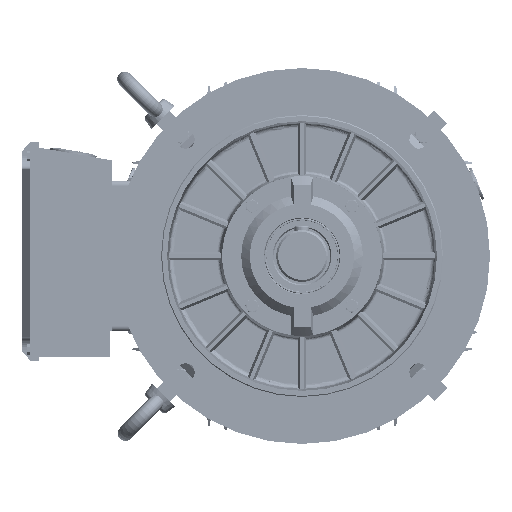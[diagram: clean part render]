
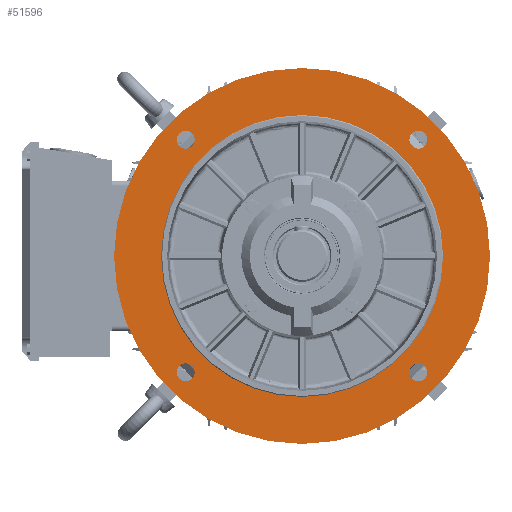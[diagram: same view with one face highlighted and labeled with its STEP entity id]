
A CAD part, left-side view. The second image highlights one B-rep face of the part: STEP entity #51596.
In plain terms, the highlighted planar face has unit normal (-1, 0, 0).
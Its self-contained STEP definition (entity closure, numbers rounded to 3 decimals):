
#771 = DIRECTION ( 'NONE',  ( -1., 0., 0. ) ) ;
#3233 = CIRCLE ( 'NONE', #233635, 150. ) ;
#6597 = FACE_BOUND ( 'NONE', #140625, .T. ) ;
#8140 = CARTESIAN_POINT ( 'NONE',  ( -274.943, -12.616, 1.066 ) ) ;
#8668 = ORIENTED_EDGE ( 'NONE', *, *, #181120, .F. ) ;
#9889 = CARTESIAN_POINT ( 'NONE',  ( -274.943, -12.616, 201.066 ) ) ;
#14997 = DIRECTION ( 'NONE',  ( -1., 0., 0. ) ) ;
#16814 = EDGE_CURVE ( 'NONE', #274257, #251968, #32973, .T. ) ;
#18409 = CARTESIAN_POINT ( 'NONE',  ( -274.943, -12.616, -148.934 ) ) ;
#19900 = ORIENTED_EDGE ( 'NONE', *, *, #205338, .T. ) ;
#20100 = CARTESIAN_POINT ( 'NONE',  ( -274.943, -136.359, -122.677 ) ) ;
#27047 = FACE_BOUND ( 'NONE', #271346, .T. ) ;
#29171 = ORIENTED_EDGE ( 'NONE', *, *, #45304, .F. ) ;
#29677 = CARTESIAN_POINT ( 'NONE',  ( -274.943, 111.128, -122.677 ) ) ;
#32973 = CIRCLE ( 'NONE', #208352, 9.5 ) ;
#33708 = CARTESIAN_POINT ( 'NONE',  ( -274.943, -136.359, -122.677 ) ) ;
#40757 = CIRCLE ( 'NONE', #45945, 9.5 ) ;
#45304 = EDGE_CURVE ( 'NONE', #161134, #223567, #40757, .T. ) ;
#45945 = AXIS2_PLACEMENT_3D ( 'NONE', #20100, #213015, #187945 ) ;
#46332 = CARTESIAN_POINT ( 'NONE',  ( -274.943, -12.616, 1.066 ) ) ;
#51596 = ADVANCED_FACE ( 'NONE', ( #263907, #53699, #191822, #121188, #6597, #27047 ), #198003, .F. ) ;
#53429 = ORIENTED_EDGE ( 'NONE', *, *, #74425, .F. ) ;
#53699 = FACE_BOUND ( 'NONE', #129744, .T. ) ;
#53915 = DIRECTION ( 'NONE',  ( 0., 0., -1. ) ) ;
#56690 = CARTESIAN_POINT ( 'NONE',  ( -274.943, 111.128, 115.31 ) ) ;
#57768 = CIRCLE ( 'NONE', #252993, 9.5 ) ;
#64462 = CARTESIAN_POINT ( 'NONE',  ( -274.943, 111.128, 124.81 ) ) ;
#65397 = ORIENTED_EDGE ( 'NONE', *, *, #260877, .F. ) ;
#67680 = AXIS2_PLACEMENT_3D ( 'NONE', #64462, #185236, #136615 ) ;
#69250 = CARTESIAN_POINT ( 'NONE',  ( -274.943, 111.128, -113.177 ) ) ;
#74425 = EDGE_CURVE ( 'NONE', #286233, #242901, #110945, .T. ) ;
#75637 = CARTESIAN_POINT ( 'NONE',  ( -274.943, -136.359, 115.31 ) ) ;
#80284 = DIRECTION ( 'NONE',  ( -1., 0., 0. ) ) ;
#83534 = CIRCLE ( 'NONE', #178756, 200. ) ;
#85255 = VERTEX_POINT ( 'NONE', #214350 ) ;
#87620 = CARTESIAN_POINT ( 'NONE',  ( -274.943, -136.359, 134.31 ) ) ;
#88196 = AXIS2_PLACEMENT_3D ( 'NONE', #122720, #193375, #150967 ) ;
#88229 = ORIENTED_EDGE ( 'NONE', *, *, #16814, .F. ) ;
#91616 = ORIENTED_EDGE ( 'NONE', *, *, #96742, .F. ) ;
#96742 = EDGE_CURVE ( 'NONE', #242901, #286233, #3233, .T. ) ;
#98675 = CARTESIAN_POINT ( 'NONE',  ( -274.943, -12.616, -198.934 ) ) ;
#102139 = AXIS2_PLACEMENT_3D ( 'NONE', #33708, #272087, #220435 ) ;
#104500 = CARTESIAN_POINT ( 'NONE',  ( -274.943, -136.359, 124.81 ) ) ;
#106776 = EDGE_LOOP ( 'NONE', ( #65397, #88229 ) ) ;
#107087 = CIRCLE ( 'NONE', #102139, 9.5 ) ;
#110945 = CIRCLE ( 'NONE', #291370, 150. ) ;
#120163 = AXIS2_PLACEMENT_3D ( 'NONE', #104500, #14997, #253391 ) ;
#121188 = FACE_BOUND ( 'NONE', #292956, .T. ) ;
#122720 = CARTESIAN_POINT ( 'NONE',  ( -274.943, -162.616, 1.066 ) ) ;
#122736 = CIRCLE ( 'NONE', #67680, 9.5 ) ;
#125369 = DIRECTION ( 'NONE',  ( -1., 0., 0. ) ) ;
#126461 = CIRCLE ( 'NONE', #246660, 200. ) ;
#129744 = EDGE_LOOP ( 'NONE', ( #8668, #256884 ) ) ;
#134613 = CARTESIAN_POINT ( 'NONE',  ( -274.943, -12.616, 151.066 ) ) ;
#136615 = DIRECTION ( 'NONE',  ( 0., 0., -1. ) ) ;
#140625 = EDGE_LOOP ( 'NONE', ( #280463, #199058 ) ) ;
#150228 = CIRCLE ( 'NONE', #120163, 9.5 ) ;
#150967 = DIRECTION ( 'NONE',  ( 0., -1., 0. ) ) ;
#155138 = CARTESIAN_POINT ( 'NONE',  ( -274.943, -12.616, 1.066 ) ) ;
#155792 = CARTESIAN_POINT ( 'NONE',  ( -274.943, -12.616, 1.066 ) ) ;
#161134 = VERTEX_POINT ( 'NONE', #287839 ) ;
#166960 = VERTEX_POINT ( 'NONE', #75637 ) ;
#174313 = ORIENTED_EDGE ( 'NONE', *, *, #200963, .F. ) ;
#178756 = AXIS2_PLACEMENT_3D ( 'NONE', #155792, #230957, #251381 ) ;
#181120 = EDGE_CURVE ( 'NONE', #303797, #85255, #122736, .T. ) ;
#181699 = DIRECTION ( 'NONE',  ( -1., 0., 0. ) ) ;
#181740 = DIRECTION ( 'NONE',  ( 0., 0., -1. ) ) ;
#185236 = DIRECTION ( 'NONE',  ( -1., 0., 0. ) ) ;
#187945 = DIRECTION ( 'NONE',  ( 0., 0., -1. ) ) ;
#191822 = FACE_BOUND ( 'NONE', #106776, .T. ) ;
#192031 = DIRECTION ( 'NONE',  ( -1., 0., 0. ) ) ;
#193375 = DIRECTION ( 'NONE',  ( 1., 0., 0. ) ) ;
#196445 = CARTESIAN_POINT ( 'NONE',  ( -274.943, 111.128, 124.81 ) ) ;
#198003 = PLANE ( 'NONE',  #88196 ) ;
#199058 = ORIENTED_EDGE ( 'NONE', *, *, #244376, .F. ) ;
#200963 = EDGE_CURVE ( 'NONE', #223567, #161134, #107087, .T. ) ;
#201083 = DIRECTION ( 'NONE',  ( -1., 0., 0. ) ) ;
#202734 = CIRCLE ( 'NONE', #237834, 9.5 ) ;
#204178 = DIRECTION ( 'NONE',  ( 0., 0., -1. ) ) ;
#205338 = EDGE_CURVE ( 'NONE', #254765, #266701, #83534, .T. ) ;
#208352 = AXIS2_PLACEMENT_3D ( 'NONE', #290745, #192031, #53915 ) ;
#213015 = DIRECTION ( 'NONE',  ( -1., 0., 0. ) ) ;
#214350 = CARTESIAN_POINT ( 'NONE',  ( -274.943, 111.128, 134.31 ) ) ;
#220435 = DIRECTION ( 'NONE',  ( 0., 0., -1. ) ) ;
#223567 = VERTEX_POINT ( 'NONE', #225819 ) ;
#225819 = CARTESIAN_POINT ( 'NONE',  ( -274.943, -136.359, -132.177 ) ) ;
#228760 = DIRECTION ( 'NONE',  ( 0., 0., -1. ) ) ;
#228802 = CARTESIAN_POINT ( 'NONE',  ( -274.943, -136.359, 124.81 ) ) ;
#230957 = DIRECTION ( 'NONE',  ( -1., 0., 0. ) ) ;
#233635 = AXIS2_PLACEMENT_3D ( 'NONE', #155138, #181699, #228760 ) ;
#237834 = AXIS2_PLACEMENT_3D ( 'NONE', #196445, #201083, #273197 ) ;
#242901 = VERTEX_POINT ( 'NONE', #18409 ) ;
#244376 = EDGE_CURVE ( 'NONE', #251157, #166960, #150228, .T. ) ;
#246660 = AXIS2_PLACEMENT_3D ( 'NONE', #46332, #259632, #286257 ) ;
#251157 = VERTEX_POINT ( 'NONE', #87620 ) ;
#251381 = DIRECTION ( 'NONE',  ( 0., 0., -1. ) ) ;
#251968 = VERTEX_POINT ( 'NONE', #262817 ) ;
#252123 = ORIENTED_EDGE ( 'NONE', *, *, #281652, .T. ) ;
#252457 = AXIS2_PLACEMENT_3D ( 'NONE', #29677, #125369, #293144 ) ;
#252993 = AXIS2_PLACEMENT_3D ( 'NONE', #228802, #771, #181740 ) ;
#253391 = DIRECTION ( 'NONE',  ( 0., 0., -1. ) ) ;
#254765 = VERTEX_POINT ( 'NONE', #9889 ) ;
#256884 = ORIENTED_EDGE ( 'NONE', *, *, #270496, .F. ) ;
#259632 = DIRECTION ( 'NONE',  ( -1., 0., 0. ) ) ;
#260877 = EDGE_CURVE ( 'NONE', #251968, #274257, #262302, .T. ) ;
#262302 = CIRCLE ( 'NONE', #252457, 9.5 ) ;
#262817 = CARTESIAN_POINT ( 'NONE',  ( -274.943, 111.128, -132.177 ) ) ;
#263907 = FACE_OUTER_BOUND ( 'NONE', #300825, .T. ) ;
#266701 = VERTEX_POINT ( 'NONE', #98675 ) ;
#270496 = EDGE_CURVE ( 'NONE', #85255, #303797, #202734, .T. ) ;
#271346 = EDGE_LOOP ( 'NONE', ( #91616, #53429 ) ) ;
#272087 = DIRECTION ( 'NONE',  ( -1., 0., 0. ) ) ;
#273197 = DIRECTION ( 'NONE',  ( 0., 0., -1. ) ) ;
#274257 = VERTEX_POINT ( 'NONE', #69250 ) ;
#280463 = ORIENTED_EDGE ( 'NONE', *, *, #287561, .F. ) ;
#281652 = EDGE_CURVE ( 'NONE', #266701, #254765, #126461, .T. ) ;
#286233 = VERTEX_POINT ( 'NONE', #134613 ) ;
#286257 = DIRECTION ( 'NONE',  ( 0., 0., -1. ) ) ;
#287561 = EDGE_CURVE ( 'NONE', #166960, #251157, #57768, .T. ) ;
#287839 = CARTESIAN_POINT ( 'NONE',  ( -274.943, -136.359, -113.177 ) ) ;
#290745 = CARTESIAN_POINT ( 'NONE',  ( -274.943, 111.128, -122.677 ) ) ;
#291370 = AXIS2_PLACEMENT_3D ( 'NONE', #8140, #80284, #204178 ) ;
#292956 = EDGE_LOOP ( 'NONE', ( #174313, #29171 ) ) ;
#293144 = DIRECTION ( 'NONE',  ( 0., 0., -1. ) ) ;
#300825 = EDGE_LOOP ( 'NONE', ( #252123, #19900 ) ) ;
#303797 = VERTEX_POINT ( 'NONE', #56690 ) ;
